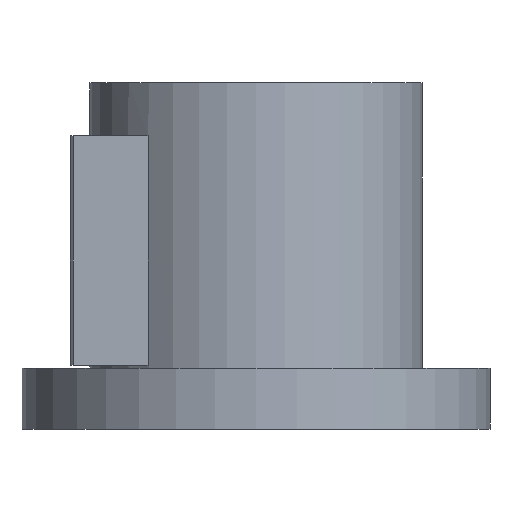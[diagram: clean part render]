
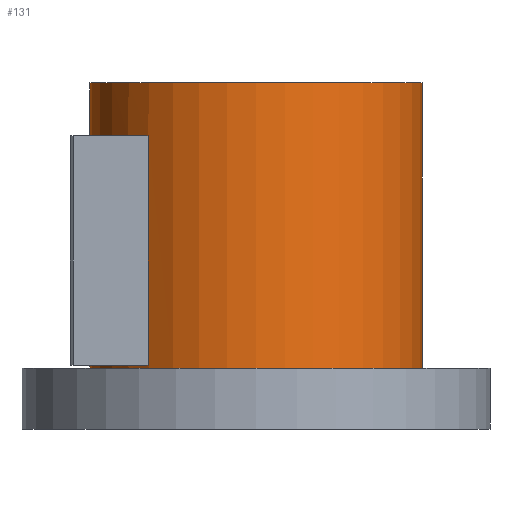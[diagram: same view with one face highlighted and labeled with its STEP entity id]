
A CAD part, front view. The second image highlights one B-rep face of the part: STEP entity #131.
In plain terms, the highlighted cylindrical face has radius 60 mm (diameter 120 mm), a full revolution.
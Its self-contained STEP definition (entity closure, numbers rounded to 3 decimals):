
#131=ADVANCED_FACE('',(#218,#219,#220),#161,.T.);
#161=CYLINDRICAL_SURFACE('',#550,60.);
#174=LINE('',#752,#196);
#175=LINE('',#756,#197);
#196=VECTOR('',#612,1.);
#197=VECTOR('',#615,1.);
#218=FACE_BOUND('',#263,.T.);
#219=FACE_BOUND('',#264,.T.);
#220=FACE_BOUND('',#265,.T.);
#263=EDGE_LOOP('',(#325));
#264=EDGE_LOOP('',(#326));
#265=EDGE_LOOP('',(#327,#328,#329,#330));
#325=ORIENTED_EDGE('',*,*,#467,.F.);
#326=ORIENTED_EDGE('',*,*,#468,.T.);
#327=ORIENTED_EDGE('',*,*,#469,.F.);
#328=ORIENTED_EDGE('',*,*,#470,.F.);
#329=ORIENTED_EDGE('',*,*,#471,.T.);
#330=ORIENTED_EDGE('',*,*,#472,.F.);
#425=VERTEX_POINT('',#746);
#426=VERTEX_POINT('',#748);
#427=VERTEX_POINT('',#750);
#428=VERTEX_POINT('',#751);
#429=VERTEX_POINT('',#753);
#430=VERTEX_POINT('',#755);
#467=EDGE_CURVE('',#425,#425,#517,.T.);
#468=EDGE_CURVE('',#426,#426,#518,.T.);
#469=EDGE_CURVE('',#427,#428,#519,.T.);
#470=EDGE_CURVE('',#429,#427,#174,.T.);
#471=EDGE_CURVE('',#429,#430,#520,.T.);
#472=EDGE_CURVE('',#428,#430,#175,.T.);
#517=CIRCLE('',#546,60.);
#518=CIRCLE('',#547,60.);
#519=CIRCLE('',#548,60.);
#520=CIRCLE('',#549,60.);
#546=AXIS2_PLACEMENT_3D('',#745,#606,#607);
#547=AXIS2_PLACEMENT_3D('',#747,#608,#609);
#548=AXIS2_PLACEMENT_3D('',#749,#610,#611);
#549=AXIS2_PLACEMENT_3D('',#754,#613,#614);
#550=AXIS2_PLACEMENT_3D('',#757,#616,#617);
#606=DIRECTION('',(0.,0.,1.));
#607=DIRECTION('',(1.,0.,0.));
#608=DIRECTION('',(0.,0.,1.));
#609=DIRECTION('',(1.,0.,0.));
#610=DIRECTION('',(0.,0.,-1.));
#611=DIRECTION('',(-1.,0.,0.));
#612=DIRECTION('',(0.,0.,1.));
#613=DIRECTION('',(0.,0.,-1.));
#614=DIRECTION('',(-1.,0.,0.));
#615=DIRECTION('',(0.,0.,-1.));
#616=DIRECTION('',(0.,0.,-1.));
#617=DIRECTION('',(-1.,0.,0.));
#745=CARTESIAN_POINT('',(0.,0.,125.));
#746=CARTESIAN_POINT('',(60.,0.,125.));
#747=CARTESIAN_POINT('',(0.,0.,22.));
#748=CARTESIAN_POINT('',(60.,0.,22.));
#749=CARTESIAN_POINT('',(0.,0.,106.));
#750=CARTESIAN_POINT('',(-39.,-45.596,106.));
#751=CARTESIAN_POINT('',(-39.,45.596,106.));
#752=CARTESIAN_POINT('',(-39.,-45.596,125.));
#753=CARTESIAN_POINT('',(-39.,-45.596,23.));
#754=CARTESIAN_POINT('',(0.,0.,23.));
#755=CARTESIAN_POINT('',(-39.,45.596,23.));
#756=CARTESIAN_POINT('',(-39.,45.596,125.));
#757=CARTESIAN_POINT('',(0.,0.,125.));
